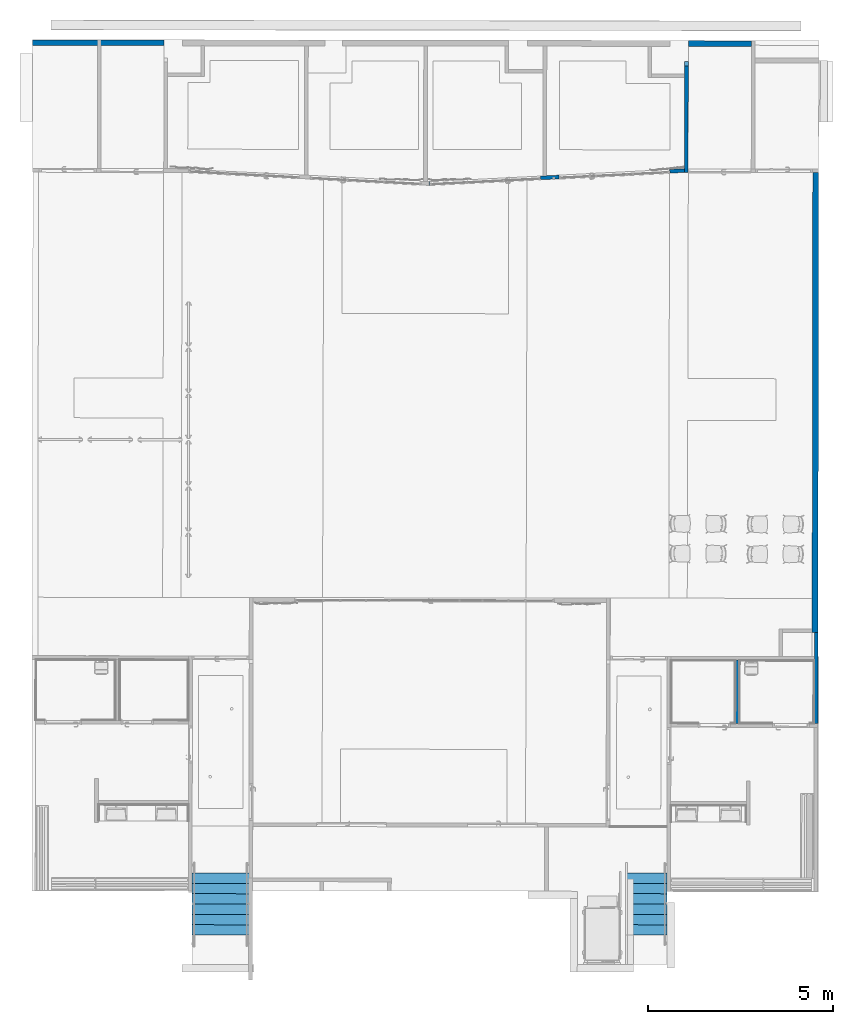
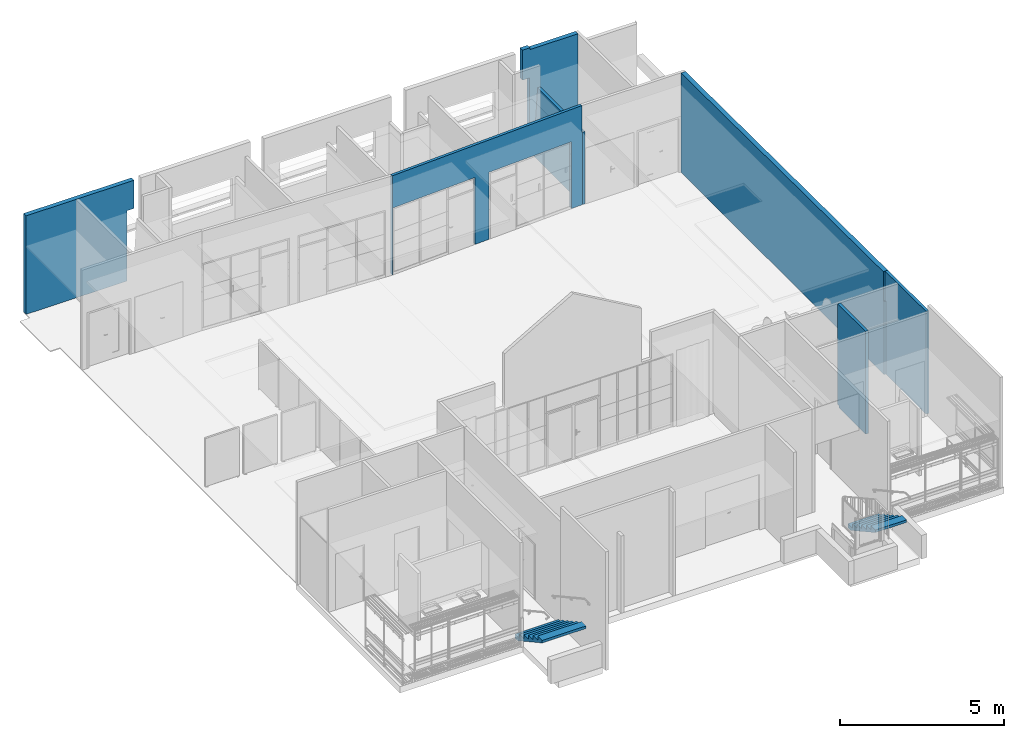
# One storey, part 28 of 43: 7 walls, 2 stair flights, 2 elements without a shape of their own.
"""IFC2X3 building model written with IfcOpenShell, lengths in metres."""

from ifc_helpers import new_model, entity, si_unit, converted_unit, derived_unit, direction, frame, origin, place, context, subcontext, project, spatial, faceted_brep, material, layer, layer_set, type_object, element, aggregate, save


model = new_model("IFC2X3")

# Units and contexts
model_context = context("Model", 3, precision=1e-05, world=origin(), true_north=direction((6.123233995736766e-17, 1.0)))
body_context = subcontext(model_context, "Body", "Model", "MODEL_VIEW")
ifc_project = project(units=[si_unit("LENGTHUNIT", "METRE"), si_unit("AREAUNIT", "SQUARE_METRE"), converted_unit("PLANEANGLEUNIT", "DEGREE", entity("IfcPlaneAngleMeasure", 0.017453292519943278), si_unit("PLANEANGLEUNIT", "RADIAN"), dimensions=[0, 0, 0, 0, 0, 0, 0]), derived_unit("THERMALTRANSMITTANCEUNIT", [(si_unit("MASSUNIT", "GRAM", prefix="KILO"), 1), (si_unit("THERMODYNAMICTEMPERATUREUNIT", "KELVIN"), -1), (si_unit("TIMEUNIT", "SECOND"), -3)])], contexts=[model_context])

# Site, building, storey
site_placement = place(None, frame((1253.6752467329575, 2072.143113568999, 91.49999999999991), z_axis=(0.0, 0.0, 1.0), x_axis=(0.7237211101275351, 0.6900925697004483, 0.0)))
site = spatial("IfcSite", under=ifc_project, at=site_placement, Name="Surface", CompositionType="ELEMENT")
building_placement = place(site_placement, origin())
building = spatial("IfcBuilding", under=site, at=building_placement, CompositionType="ELEMENT")
storey_placement = place(building_placement, frame((0.0, 0.0, -4.629999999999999)))
storey = spatial("IfcBuildingStorey", under=building, at=storey_placement, Name="rez de rue -1.10m", CompositionType="ELEMENT", Elevation=-4.629999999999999)

# Walls
ifc_material_1 = material(Name="OMD_Cloison 100mm CF1h")
ifc_layer_1 = layer(ifc_material_1, 0.1)
ifc_layer_set_1 = layer_set([ifc_layer_1], Name="Mur de base:Cloison 100mm CF1h")
wall_type_1 = type_object("IfcWallType", Name="Mur de base:Cloison 100mm CF1h", PredefinedType="STANDARD", material=ifc_layer_set_1)
wall_1_placement = place(storey_placement, frame((188.32004805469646, 5.111928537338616, 0.0), z_axis=(0.0, 0.0, 1.0), x_axis=(-0.6919753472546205, -0.7219211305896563, 0.0)))
element("IfcWall", 1, at=wall_1_placement, inside=storey, type_object=wall_type_1, Name="Mur de base:Cloison 100mm CF1h", ObjectType="Mur de base:Cloison 100mm CF1h", context=body_context, shape_type="Brep", body=[
    faceted_brep([(3.0033926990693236, -0.0499999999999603, 0.0), (3.0033926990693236, -0.0499999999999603, 2.7000000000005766), (3.002784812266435, -0.04999999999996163, 2.7000000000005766), (2.902641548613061, -0.04999999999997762, 2.7000000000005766), (0.25820675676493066, -0.04999999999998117, 2.7000000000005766), (0.0, -0.04999999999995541, 0.0), (0.33548440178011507, -0.04999999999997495, 0.0), (0.43548446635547, -0.049999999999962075, 0.0), (2.9026415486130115, -0.049999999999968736, 0.0), (3.002784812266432, -0.04999999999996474, 0.0), (3.0032790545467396, 0.0500000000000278, 0.0), (2.9032789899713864, 0.050000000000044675, 0.0), (0.0, 0.05000000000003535, 0.0), (0.25820675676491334, 0.05000000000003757, 2.7000000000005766), (2.9032789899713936, 0.05000000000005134, 2.7000000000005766), (3.0032790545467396, 0.0500000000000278, 2.7000000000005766)], [[[0, 1, 2, 3, 4, 5, 6, 7, 8, 9]], [[10, 11, 12, 13, 14, 15]], [[0, 9, 8, 7, 6, 5, 12, 11, 10]], [[4, 3, 2, 1, 15, 14, 13]], [[5, 4, 13, 12]], [[1, 0, 10, 15]]]),
])
wall_2_placement = place(storey_placement, frame((180.99577113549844, 7.529728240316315, 0.0), z_axis=(0.0, 0.0, 1.0), x_axis=(0.7578888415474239, -0.6523837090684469, 0.0)))
element("IfcWall", 2, at=wall_2_placement, inside=storey, type_object=wall_type_1, Name="Mur de base:Cloison 100mm CF1h", ObjectType="Mur de base:Cloison 100mm CF1h", context=body_context, shape_type="Brep", body=[
    faceted_brep([(6.9062160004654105, -0.04999999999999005, 3.7040700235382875), (0.0, -0.04999999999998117, 3.7072873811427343), (0.0, -0.04999999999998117, 0.0), (0.01912571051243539, -0.04999999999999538, 0.0), (0.019125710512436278, -0.04999999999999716, 2.4999999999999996), (3.0191257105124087, -0.049999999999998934, 2.4999999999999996), (3.0191257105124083, -0.049999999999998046, 0.0), (3.524487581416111, -0.050000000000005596, 0.0), (3.524487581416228, -0.04999999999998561, 2.4999999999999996), (6.524487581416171, -0.0499999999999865, 2.4999999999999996), (6.524487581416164, -0.049999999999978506, 0.0), (6.917831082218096, -0.049999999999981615, 0.0), (6.917831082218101, -0.04999999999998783, 2.7000000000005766), (6.906216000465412, -0.04999999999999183, 2.7000000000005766), (0.005240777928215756, 0.0500000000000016, 3.7063960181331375), (6.908834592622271, 0.0499999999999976, 3.703179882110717), (6.9088345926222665, 0.04999999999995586, 2.7000000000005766), (6.923185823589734, 0.05000000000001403, 2.7000000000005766), (6.92318582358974, 0.05000000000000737, 0.0), (6.524487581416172, 0.050000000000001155, 0.0), (6.524487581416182, 0.04999999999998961, 2.4999999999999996), (3.5244875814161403, 0.050000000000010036, 2.4999999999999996), (3.5244875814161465, 0.05000000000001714, 0.0), (3.1880214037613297, 0.05000000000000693, 0.0), (3.0878841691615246, 0.0500000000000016, 0.0), (3.0191257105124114, 0.05000000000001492, 0.0), (3.0191257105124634, 0.0500000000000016, 2.4999999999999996), (0.019125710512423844, 0.05000000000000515, 2.4999999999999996), (0.019125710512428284, 0.04999999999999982, 0.0), (0.0052407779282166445, 0.04999999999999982, 0.0)], [[[0, 1, 2, 3, 4, 5, 6, 7, 8, 9, 10, 11, 12, 13]], [[14, 15, 16, 17, 18, 19, 20, 21, 22, 23, 24, 25, 26, 27, 28, 29]], [[2, 29, 28, 3]], [[1, 0, 15, 14]], [[2, 1, 14, 29]], [[27, 4, 3, 28]], [[26, 5, 4, 27]], [[5, 26, 25, 6]], [[13, 12, 17, 16]], [[12, 11, 18, 17]], [[0, 13, 16, 15]], [[21, 8, 7, 22]], [[8, 21, 20, 9]], [[9, 20, 19, 10]], [[6, 25, 24, 23, 22, 7]], [[18, 11, 10, 19]]]),
])
ifc_material_2 = material(Name="OMD_Cloison 100mm")
ifc_layer_2 = layer(ifc_material_2, 0.1)
ifc_layer_set_2 = layer_set([ifc_layer_2], Name="Mur de base:Cloison 100mm")
wall_type_2 = type_object("IfcWallType", Name="Mur de base:Cloison 100mm", PredefinedType="STANDARD", material=ifc_layer_set_2)
wall_3_placement = place(storey_placement, frame((176.94650876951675, -8.809574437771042, 0.0), z_axis=(0.0, 0.0, 1.0), x_axis=(0.6911544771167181, 0.7227070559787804, 0.0)))
element("IfcWall", 3, at=wall_3_placement, inside=storey, type_object=wall_type_2, Name="Mur de base:Cloison 100mm", ObjectType="Mur de base:Cloison 100mm", context=body_context, shape_type="Brep", body=[
    faceted_brep([(0.0, -0.04999999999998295, 0.0), (1.615392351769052, -0.04999999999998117, 0.0), (1.6153923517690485, -0.049999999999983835, 0.08000000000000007), (1.7153923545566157, -0.04999999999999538, 0.08000000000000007), (1.715392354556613, -0.049999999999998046, 3.8215981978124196), (0.0, -0.04999999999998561, 3.8368676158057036), (0.0, 0.05000000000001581, 0.0), (0.0, 0.05000000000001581, 3.8368676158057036), (1.715368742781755, 0.050000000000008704, 3.821598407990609), (1.715368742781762, 0.05000000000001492, 0.08000000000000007), (1.6153687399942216, 0.04999999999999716, 0.08000000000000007), (1.6153687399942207, 0.04999999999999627, 0.0)], [[[0, 1, 2, 3, 4, 5]], [[6, 7, 8, 9, 10, 11]], [[1, 0, 6, 11]], [[0, 5, 7, 6]], [[5, 4, 8, 7]], [[9, 3, 2, 10]], [[2, 1, 11, 10]], [[4, 3, 9, 8]]]),
])
ifc_material_3 = material(Name="Maçonnerie - Isolant")
ifc_layer_3 = layer(ifc_material_3, 0.085)
ifc_material_4 = material(Name="Mur par défaut")
ifc_layer_4 = layer(ifc_material_4, 0.05)
ifc_material_5 = material(Name="OMD_panneaux bois")
ifc_layer_5 = layer(ifc_material_5, 0.025)
ifc_layer_set_3 = layer_set([ifc_layer_3, ifc_layer_4, ifc_layer_5], Name="Mur de base:Cloison bois isolant 85mm")
wall_type_3 = type_object("IfcWallType", Name="Mur de base:Cloison bois isolant 85mm", PredefinedType="STANDARD", material=ifc_layer_set_3)
wall_4_placement = place(storey_placement, frame((180.16898380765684, -8.47946625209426, 0.0), z_axis=(0.0, 0.0, 1.0), x_axis=(0.6911544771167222, 0.7227070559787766, 0.0)))
element("IfcWall", 4, at=wall_4_placement, inside=storey, type_object=wall_type_3, Name="Mur de base:Cloison bois isolant 85mm", ObjectType="Mur de base:Cloison bois isolant 85mm", context=body_context, shape_type="Brep", body=[
    faceted_brep([(0.0, -0.07999999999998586, 0.0), (12.452907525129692, -0.08000000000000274, 0.0), (12.452907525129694, -0.08000000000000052, 3.7040700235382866), (0.0499999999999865, -0.07999999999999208, 3.814473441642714), (0.04999999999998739, -0.0799999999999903, 2.7250000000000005), (0.0, -0.07999999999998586, 2.7250000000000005), (0.0, 0.08000000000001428, 0.0), (0.0, 0.08000000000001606, 2.7250000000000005), (0.049999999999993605, 0.08000000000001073, 2.7250000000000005), (0.049999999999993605, 0.08000000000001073, 3.814473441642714), (12.4529075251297, 0.08000000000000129, 3.7040700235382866), (12.452907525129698, 0.0799999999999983, 0.0), (0.09999999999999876, 0.0800000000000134, 0.0), (0.0, -0.07830327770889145, 0.0), (0.0, 0.019696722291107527, 0.0), (0.04999999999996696, 0.019696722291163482, 3.814473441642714), (0.04999999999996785, -0.07830327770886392, 3.814473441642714), (0.04999999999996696, 0.019696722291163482, 2.7250000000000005), (0.04999999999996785, -0.07830327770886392, 2.7250000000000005), (0.0, 0.01969672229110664, 2.7250000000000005), (0.0, -0.07830327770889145, 2.7250000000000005)], [[[0, 1, 2, 3, 4, 5]], [[6, 7, 8, 9, 10, 11, 12]], [[1, 0, 13, 14, 6, 12, 11]], [[2, 1, 11, 10]], [[3, 2, 10, 9, 15, 16]], [[4, 3, 16, 15, 9, 8, 17, 18]], [[4, 18, 17, 8, 7, 19, 20, 5]], [[0, 5, 20, 19, 7, 6, 14, 13]]]),
])
ifc_material_6 = material(Name="OMD_BA 25")
ifc_layer_6 = layer(ifc_material_6, 0.013)
ifc_layer_7 = layer(ifc_material_4, 0.02)
ifc_layer_8 = layer(ifc_material_3, 0.12)
ifc_layer_set_4 = layer_set([ifc_layer_6, ifc_layer_7, ifc_layer_8], Name="Mur de base:ITI 120mm+BA13")
wall_type_4 = type_object("IfcWallType", Name="Mur de base:ITI 120mm+BA13", PredefinedType="STANDARD", material=ifc_layer_set_4)
wall_5_placement = place(storey_placement, frame((188.5159644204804, 5.597662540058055, 0.0), z_axis=(0.0, 0.0, 1.0), x_axis=(0.7228702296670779, -0.6909838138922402, 0.0)))
element("IfcWall", 5, at=wall_5_placement, inside=storey, type_object=wall_type_4, Name="Mur de base:ITI 120mm+BA13", ObjectType="Mur de base:ITI 120mm+BA13", context=body_context, shape_type="Brep", body=[
    faceted_brep([(0.2498952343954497, -0.07650000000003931, 0.0), (1.950725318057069, -0.07650000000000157, 0.0), (1.9507253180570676, -0.07650000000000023, 3.6736828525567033), (0.2553431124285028, -0.07650000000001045, 3.67368641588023), (0.25534311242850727, -0.07650000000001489, 3.7411987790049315), (0.0, -0.07650000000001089, 3.7411987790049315), (0.0, -0.07650000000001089, 2.6234956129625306), (0.24989523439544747, -0.07650000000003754, 2.6234956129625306), (0.25010523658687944, 0.07649999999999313, 0.0), (0.25010523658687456, 0.07649999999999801, 2.6234956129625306), (0.0, 0.0764999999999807, 2.6234956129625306), (0.0, 0.0764999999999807, 3.7411987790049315), (0.2555531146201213, 0.07649999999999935, 3.7411987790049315), (0.2555531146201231, 0.07649999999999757, 3.6723244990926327), (1.9507614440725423, 0.07649999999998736, 3.6723209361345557), (1.9507614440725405, 0.07649999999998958, 0.0)], [[[0, 1, 2, 3, 4, 5, 6, 7]], [[8, 9, 10, 11, 12, 13, 14, 15]], [[1, 0, 8, 15]], [[6, 5, 11, 10]], [[6, 10, 9, 7]], [[0, 7, 9, 8]], [[5, 4, 12, 11]], [[12, 4, 3, 13]], [[3, 2, 14, 13]], [[2, 1, 15, 14]]]),
])
wall_6_placement = place(storey_placement, frame((175.859742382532, 17.695607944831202, 0.0), z_axis=(0.0, 0.0, 1.0), x_axis=(0.7228702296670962, -0.6909838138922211, 0.0)))
element("IfcWall", 6, at=wall_6_placement, inside=storey, type_object=wall_type_4, Name="Mur de base:ITI 120mm+BA13", ObjectType="Mur de base:ITI 120mm+BA13", context=body_context, shape_type="Brep", body=[
    faceted_brep([(0.0, -0.07649999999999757, 3.6766999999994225), (0.0, -0.0764999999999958, 0.0), (3.5581853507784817, -0.07649999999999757, 0.0), (3.5581853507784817, -0.07650000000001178, 2.623495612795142), (3.808290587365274, -0.07650000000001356, 2.623495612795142), (3.808290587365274, -0.07650000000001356, 3.6766999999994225), (0.0, 0.07650000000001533, 0.0), (0.0, 0.07650000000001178, 3.6766999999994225), (3.808290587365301, 0.07650000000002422, 3.6766999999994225), (3.808290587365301, 0.07650000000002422, 2.623495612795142), (3.5583953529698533, 0.07649999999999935, 2.623495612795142), (3.5583953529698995, 0.07650000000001, 0.0)], [[[0, 1, 2, 3, 4, 5]], [[6, 7, 8, 9, 10, 11]], [[2, 1, 6, 11]], [[0, 5, 8, 7]], [[0, 7, 6, 1]], [[5, 4, 9, 8]], [[9, 4, 3, 10]], [[3, 2, 11, 10]]]),
])
ifc_layer_9 = layer(ifc_material_3, 0.085)
ifc_material_7 = material(Name="TV_Black")
ifc_layer_10 = layer(ifc_material_7, 0.013)
ifc_layer_set_5 = layer_set([ifc_layer_9, ifc_layer_10], Name="Mur de base:ITI85+ba13")
wall_type_5 = type_object("IfcWallType", Name="Mur de base:ITI85+ba13", PredefinedType="STANDARD", material=ifc_layer_set_5)
wall_7_placement = place(storey_placement, frame((178.48591308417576, -10.281770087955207, 0.0), z_axis=(0.0, 0.0, 1.0), x_axis=(0.6911544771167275, 0.7227070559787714, 0.0)))
element("IfcWall", 7, at=wall_7_placement, inside=storey, type_object=wall_type_5, Name="Mur de base:ITI85+ba13", ObjectType="Mur de base:ITI85+ba13", context=body_context, shape_type="Brep", body=[
    faceted_brep([(0.0, -0.04899999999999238, 0.0), (2.4657995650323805, -0.04900000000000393, 0.0), (2.4657995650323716, -0.04900000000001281, 2.7250000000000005), (2.5157995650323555, -0.04900000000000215, 2.7250000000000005), (2.5157995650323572, -0.049000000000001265, 3.8144734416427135), (0.0, -0.04899999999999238, 3.836867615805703), (0.0, 0.04900000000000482, 0.0), (0.0, 0.04900000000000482, 3.8368676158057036), (2.515799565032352, 0.04900000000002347, 3.8144734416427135), (2.515799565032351, 0.04900000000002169, 2.7250000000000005), (2.465799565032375, 0.04899999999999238, 2.7250000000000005), (2.465799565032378, 0.04899999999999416, 0.0), (0.0, -0.046952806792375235, 0.0), (0.0, -0.04695280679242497, 3.836867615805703)], [[[0, 1, 2, 3, 4, 5]], [[6, 7, 8, 9, 10, 11]], [[1, 0, 12, 6, 11]], [[0, 5, 13, 7, 6, 12]], [[5, 4, 8, 7, 13]], [[4, 3, 9, 8]], [[9, 3, 2, 10]], [[2, 1, 11, 10]]]),
])

# Stair, stair flight
type_product = type_object("IfcTypeProduct", Name="Escalier coulé sur place:Monobloc")
stair_1_placement = place(storey_placement, origin())
stair_1 = element("IfcStair", 8, at=stair_1_placement, inside=storey, type_object=type_product, Name="Escalier coulé sur place:Escalier", ObjectType="Escalier coulé sur place:Monobloc", ShapeType="STRAIGHT_RUN_STAIR")
ifc_material_8 = material(Name="OMD_RAL1032")
stair_flight_type = type_object("IfcStairFlightType", Name="Volée monobloc:Nez de marche 5 mm", PredefinedType="STRAIGHT")
stair_flight_1_placement = place(stair_1_placement, frame((162.31386711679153, -3.8319193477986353, 0.0)))
stair_flight_1 = element("IfcStairFlight", 9, at=stair_flight_1_placement, type_object=stair_flight_type, material=ifc_material_8, Name="Escalier coulé sur place:Escalier:3320616 Run 1", ObjectType="Volée monobloc:Nez de marche 5 mm", NumberOfRiser=7, NumberOfTreads=6, RiserHeight=0.5061867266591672, TreadLength=0.9186351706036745, context=body_context, shape_type="Brep", body=[
    faceted_brep([(2.084371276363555, 1.0084039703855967, 0.1542857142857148), (2.2778467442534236, 1.2108076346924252, 0.1542857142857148), (1.1573978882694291, 2.2818325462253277, 0.1542857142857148), (0.9639224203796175, 2.079428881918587, 0.1542857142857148), (2.084371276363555, 1.008403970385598, 0.06294464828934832), (2.163304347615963, 1.0909795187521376, 0.0), (2.2778467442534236, 1.2108076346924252, 0.0), (1.1573978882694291, 2.2818325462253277, 0.0), (1.04285549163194, 2.1620044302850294, 0.0), (0.9639224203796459, 2.079428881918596, 0.06294464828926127), (1.890895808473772, 0.8060003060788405, 0.3085714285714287), (2.084371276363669, 1.008403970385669, 0.3085714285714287), (0.9639224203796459, 2.079428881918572, 0.3085714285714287), (0.7704469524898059, 1.8770252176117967, 0.3085714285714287), (1.8908958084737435, 0.8060003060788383, 0.21723036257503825), (0.7704469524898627, 1.87702521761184, 0.21723036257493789), (1.6974203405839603, 0.6035966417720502, 0.46285714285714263), (1.8908958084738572, 0.8060003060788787, 0.46285714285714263), (0.7704469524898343, 1.8770252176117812, 0.46285714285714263), (0.576971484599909, 1.674621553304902, 0.46285714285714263), (1.6974203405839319, 0.6035966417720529, 0.3715160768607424), (0.5769714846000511, 1.6746215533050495, 0.37151607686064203), (1.5039448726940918, 0.4011929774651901, 0.6171428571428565), (1.6974203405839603, 0.6035966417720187, 0.6171428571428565), (0.5769714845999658, 1.6746215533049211, 0.6171428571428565), (0.38349601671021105, 1.472217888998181, 0.6171428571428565), (1.5039448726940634, 0.40119297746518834, 0.5258017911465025), (0.38349601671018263, 1.4722178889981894, 0.5258017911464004), (1.310469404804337, 0.19878931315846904, 0.7714285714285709), (1.503944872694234, 0.40119297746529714, 0.7714285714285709), (0.38349601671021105, 1.4722178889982, 0.7714285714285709), (0.19002054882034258, 1.2698142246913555, 0.7714285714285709), (1.3104694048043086, 0.1987893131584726, 0.6800875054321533), (0.19002054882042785, 1.2698142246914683, 0.6800875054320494), (1.1204488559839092, 0.0, 0.9257142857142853), (1.3104694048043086, 0.19878931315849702, 0.9257142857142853), (0.19002054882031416, 1.2698142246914, 0.9257142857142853), (0.0, 1.0710249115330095, 0.9257142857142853), (1.1204488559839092, 0.0, 0.8316181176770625), (0.0, 1.0710249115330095, 0.8316181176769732)], [[[0, 1, 2, 3]], [[1, 0, 4, 5, 6]], [[2, 1, 6, 7]], [[3, 2, 7, 8, 9]], [[10, 11, 12, 13]], [[11, 10, 14, 4, 0]], [[0, 3, 12, 11]], [[13, 12, 3, 9, 15]], [[16, 17, 18, 19]], [[17, 16, 20, 14, 10]], [[10, 13, 18, 17]], [[19, 18, 13, 15, 21]], [[22, 23, 24, 25]], [[23, 22, 26, 20, 16]], [[16, 19, 24, 23]], [[25, 24, 19, 21, 27]], [[28, 29, 30, 31]], [[29, 28, 32, 26, 22]], [[22, 25, 30, 29]], [[31, 30, 25, 27, 33]], [[34, 35, 36, 37]], [[35, 34, 38, 32, 28]], [[28, 31, 36, 35]], [[37, 36, 31, 33, 39]], [[34, 37, 39, 38]], [[7, 6, 5, 8]], [[8, 5, 4, 14, 20, 26, 32, 38, 39, 33, 27, 21, 15, 9]]]),
])
aggregate(stair_1, [stair_flight_1])

stair_2_placement = place(storey_placement, origin())
stair_2 = element("IfcStair", 10, at=stair_2_placement, inside=storey, type_object=type_product, Name="Escalier coulé sur place:Escalier", ObjectType="Escalier coulé sur place:Monobloc", ShapeType="STRAIGHT_RUN_STAIR")
stair_flight_2_placement = place(stair_2_placement, frame((170.821770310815, -11.63401192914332, 0.0)))
stair_flight_2 = element("IfcStairFlight", 11, at=stair_flight_2_placement, type_object=stair_flight_type, material=ifc_material_8, Name="Escalier coulé sur place:Escalier:5437309 Run 1", ObjectType="Volée monobloc:Nez de marche 5 mm", NumberOfRiser=7, NumberOfTreads=6, RiserHeight=0.5061867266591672, TreadLength=0.9186351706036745, context=body_context, shape_type="Brep", body=[
    faceted_brep([(1.7590796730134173, 1.0084039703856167, 0.1542857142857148), (1.9525551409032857, 1.210807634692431, 0.1542857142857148), (1.1573978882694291, 1.9708898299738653, 0.1542857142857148), (0.9639224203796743, 1.7684861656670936, 0.1542857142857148), (1.7590796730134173, 1.0084039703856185, 0.06294464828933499), (1.838012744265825, 1.0909795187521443, 0.0), (1.9525551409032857, 1.210807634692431, 0.0), (1.1573978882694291, 1.9708898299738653, 0.0), (1.0428554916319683, 1.8510617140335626, 0.0), (0.9639224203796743, 1.7684861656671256, 0.06294464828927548), (1.5656042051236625, 0.806000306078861, 0.3085714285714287), (1.7590796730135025, 1.0084039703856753, 0.3085714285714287), (0.9639224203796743, 1.7684861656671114, 0.3085714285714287), (0.7704469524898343, 1.5660825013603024, 0.3085714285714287), (1.5656042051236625, 0.8060003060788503, 0.21723036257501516), (0.7704469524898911, 1.5660825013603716, 0.21723036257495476), (1.3721287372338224, 0.6035966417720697, 0.46285714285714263), (1.5656042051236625, 0.8060003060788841, 0.46285714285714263), (0.7704469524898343, 1.5660825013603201, 0.46285714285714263), (0.5769714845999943, 1.3636788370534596, 0.46285714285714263), (1.3721287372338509, 0.6035966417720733, 0.37151607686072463), (0.5769714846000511, 1.3636788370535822, 0.3715160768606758), (1.178653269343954, 0.40119297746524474, 0.6171428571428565), (1.3721287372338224, 0.6035966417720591, 0.6171428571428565), (0.5769714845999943, 1.3636788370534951, 0.6171428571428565), (0.38349601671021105, 1.1612751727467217, 0.6171428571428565), (1.1786532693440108, 0.40119297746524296, 0.5258017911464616), (0.38349601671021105, 1.1612751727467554, 0.5258017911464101), (0.9851778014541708, 0.1987893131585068, 0.7714285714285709), (1.1786532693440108, 0.4011929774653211, 0.7714285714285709), (0.38349601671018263, 1.1612751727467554, 0.7714285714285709), (0.19002054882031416, 0.9588715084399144, 0.7714285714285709), (0.9851778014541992, 0.198789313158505, 0.6800875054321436), (0.19002054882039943, 0.9588715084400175, 0.6800875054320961), (0.7951572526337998, 0.0, 0.9257142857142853), (0.9851778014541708, 0.198789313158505, 0.9257142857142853), (0.19002054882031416, 0.9588715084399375, 0.9257142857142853), (0.0, 0.7600821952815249, 0.9257142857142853), (0.7951572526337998, 0.0, 0.8316181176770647), (0.0, 0.7600821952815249, 0.8316181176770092)], [[[0, 1, 2, 3]], [[1, 0, 4, 5, 6]], [[2, 1, 6, 7]], [[3, 2, 7, 8, 9]], [[10, 11, 12, 13]], [[11, 10, 14, 4, 0]], [[0, 3, 12, 11]], [[13, 12, 3, 9, 15]], [[16, 17, 18, 19]], [[17, 16, 20, 14, 10]], [[10, 13, 18, 17]], [[19, 18, 13, 15, 21]], [[22, 23, 24, 25]], [[23, 22, 26, 20, 16]], [[16, 19, 24, 23]], [[25, 24, 19, 21, 27]], [[28, 29, 30, 31]], [[29, 28, 32, 26, 22]], [[22, 25, 30, 29]], [[31, 30, 25, 27, 33]], [[34, 35, 36, 37]], [[35, 34, 38, 32, 28]], [[28, 31, 36, 35]], [[37, 36, 31, 33, 39]], [[34, 37, 39, 38]], [[7, 6, 5, 8]], [[8, 5, 4, 14, 20, 26, 32, 38, 39, 33, 27, 21, 15, 9]]]),
])
aggregate(stair_2, [stair_flight_2])

save(model, "model.ifc")
